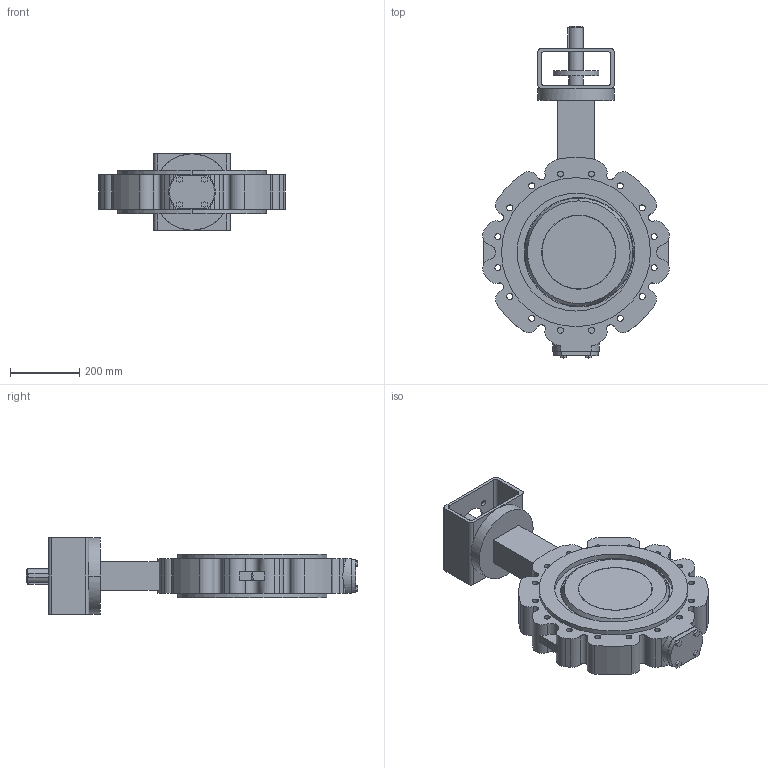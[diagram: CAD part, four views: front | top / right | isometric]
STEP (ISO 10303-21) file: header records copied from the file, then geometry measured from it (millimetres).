
FILE_DESCRIPTION( ( '' ), '1' );
FILE_NAME( 'F:/DE-SHS/TB/OR/04-Sonstiges/daten/files_3d/018_ZETRIX-PN10_freiesWellende/c000006352.stp', '2016-09-01T11:03:53', ( '' ), ( '' ), ' ', ' ', ' ' );
FILE_SCHEMA( ( 'CONFIG_CONTROL_DESIGN' ) );
Length unit declared in the file: millimetre
Products named in the file (1): 1
Bounding box: 538.08 x 958.4 x 220 mm (x, y, z)
Volume: 23054602.6 mm3; surface area: 1379204.3 mm2
Topology: 1 solids, 1 shells, 290 faces, 770 edges, 512 vertices
Faces by surface type: cylinder 163, plane 119, sphere 4, cone 4
Entity records: 9934 total; most frequent: CARTESIAN_POINT 2283, DIRECTION 1676, ORIENTED_EDGE 1540, EDGE_CURVE 770, AXIS2_PLACEMENT_3D 645, VERTEX_POINT 512, LINE 386, VECTOR 386
